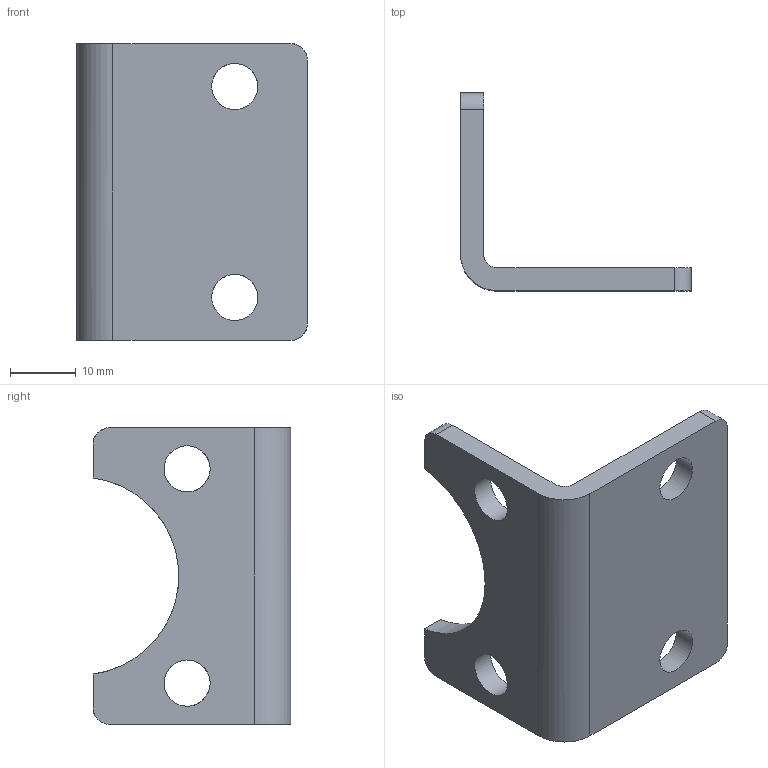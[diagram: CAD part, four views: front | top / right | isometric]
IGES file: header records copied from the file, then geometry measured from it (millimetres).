
Global section: file name: 1325_032_05-1F; native system: Autodesk Inventor 2014; preprocessor: unknown; organization: Pneumax S.p.A.; date: 20161014.140202; units: millimetre
Bounding box: 35 x 30 x 45 mm (x, y, z)
Volume: 7847.8 mm3; surface area: 5558.5 mm2
Topology: 1 solids, 1 shells, 20 faces, 58 edges, 40 vertices
Faces by surface type: bspline 20
